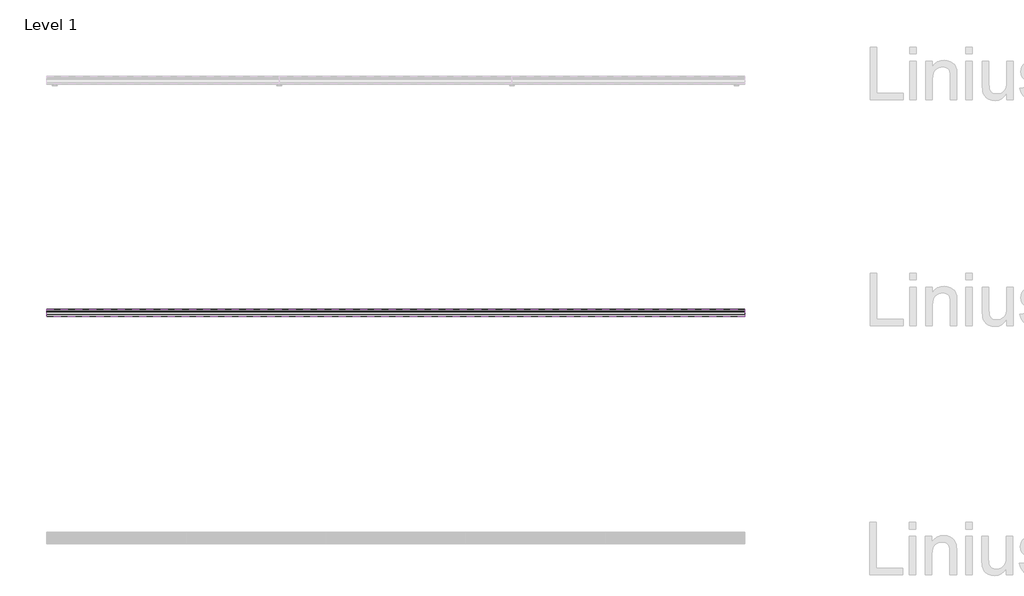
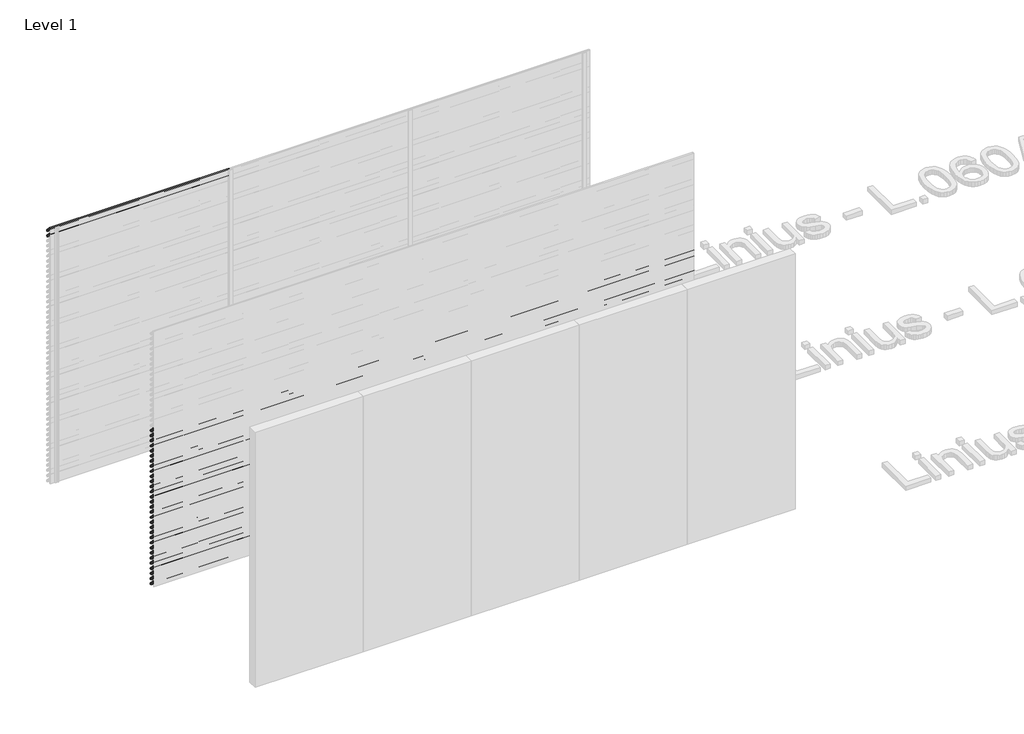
# One storey, part 95 of 153: 33 proxies.
"""IFC4 building model written with IfcOpenShell, lengths in millimetres."""

from ifc_helpers import new_model, si_unit, point, frame, frame_2d, origin, place, context, project, spatial, polyline, circle_curve, trimmed, segment, composite_curve, outline, extrude, element, save

model = new_model("IFC4")

# Units and contexts
model_context = context("Model", 3, world=origin())
ifc_project = project(units=[si_unit("LENGTHUNIT", "METRE", prefix="MILLI")], contexts=[model_context])

# Site, building, storey
site = spatial("IfcSite", under=ifc_project)
building = spatial("IfcBuilding", under=site)
storey = spatial("IfcBuildingStorey", under=building, Name="Level 1", Elevation=0.0)

# Proxies
placement = place(None, origin())
element("IfcBuildingElementProxy", 1, Name="Wall Sweeps", at=placement, inside=storey, context=model_context, shape_type="SweptSolid", body=[
    extrude(outline(composite_curve([segment(polyline([(43985.0540136, 3000.0), (43999.874191, 2998.7034025), (44049.0540136, 2945.0102749), (44049.0540136, 2933.6108187)]), True, "CONTINUOUS"), segment(trimmed(circle_curve(frame_2d((44045.7883652, 2933.897153)), 3.2781774), [point((44049.0540136, 2933.6108187))], [point((44046.4639442, 2930.6893438))], False, "CARTESIAN"), True, "CONTINUOUS"), segment(polyline([(44046.4639442, 2930.6893438), (44034.1895723, 2931.6282758), (43985.0540136, 2985.2730773), (43985.0540136, 3000.0)]), True, "CONTINUOUS")], self_intersect=False), holes=[composite_curve([segment(polyline([(43999.1621773, 2997.2599659), (43986.5540136, 2998.3630372), (43986.5540136, 2985.856213), (44034.8952036, 2933.0786805), (44046.3312542, 2932.2038762)]), True, "CONTINUOUS"), segment(trimmed(circle_curve(frame_2d((44045.7883652, 2933.897153)), 1.7781774), [point((44046.3312542, 2932.2038762))], [point((44047.5540136, 2933.6864389))], True, "CARTESIAN"), True, "CONTINUOUS"), segment(polyline([(44047.5540136, 2933.6864389), (44047.5540136, 2944.4271392), (43999.1621773, 2997.2599659)]), True, "CONTINUOUS")], self_intersect=False)]), frame((44966.6208097, 0.0, 0.0), z_axis=(1.0, 0.0, 0.0), x_axis=(0.0, 1.0, 0.0)), (0.0, 0.0, 1.0), 2000.0000001),
])
element("IfcBuildingElementProxy", 2, Name="Wall Sweeps", at=placement, inside=storey, context=model_context, shape_type="SweptSolid", body=[
    extrude(outline(composite_curve([segment(polyline([(43985.0540136, 2940.0), (43999.874191, 2938.7034025), (44049.0540136, 2885.0102749), (44049.0540136, 2873.6108187)]), True, "CONTINUOUS"), segment(trimmed(circle_curve(frame_2d((44045.7883652, 2873.897153)), 3.2781774), [point((44049.0540136, 2873.6108187))], [point((44046.4639442, 2870.6893438))], False, "CARTESIAN"), True, "CONTINUOUS"), segment(polyline([(44046.4639442, 2870.6893438), (44034.1895723, 2871.6282758), (43985.0540136, 2925.2730773), (43985.0540136, 2940.0)]), True, "CONTINUOUS")], self_intersect=False), holes=[composite_curve([segment(polyline([(43999.1621773, 2937.2599659), (43986.5540136, 2938.3630372), (43986.5540136, 2925.856213), (44034.8952036, 2873.0786805), (44046.3312542, 2872.2038762)]), True, "CONTINUOUS"), segment(trimmed(circle_curve(frame_2d((44045.7883652, 2873.897153)), 1.7781774), [point((44046.3312542, 2872.2038762))], [point((44047.5540136, 2873.6864389))], True, "CARTESIAN"), True, "CONTINUOUS"), segment(polyline([(44047.5540136, 2873.6864389), (44047.5540136, 2884.4271392), (43999.1621773, 2937.2599659)]), True, "CONTINUOUS")], self_intersect=False)]), frame((44966.6208097, 0.0, 0.0), z_axis=(1.0, 0.0, 0.0), x_axis=(0.0, 1.0, 0.0)), (0.0, 0.0, 1.0), 2000.0000001),
])
element("IfcBuildingElementProxy", 3, Name="Wall Sweeps", at=placement, inside=storey, context=model_context, shape_type="SweptSolid", body=[
    extrude(outline(composite_curve([segment(polyline([(41985.0540136, 1860.0), (41999.874191, 1858.7034025), (42049.0540136, 1805.0102749), (42049.0540136, 1793.6108187)]), True, "CONTINUOUS"), segment(trimmed(circle_curve(frame_2d((42045.7883652, 1793.897153)), 3.2781774), [point((42049.0540136, 1793.6108187))], [point((42046.4639442, 1790.6893438))], False, "CARTESIAN"), True, "CONTINUOUS"), segment(polyline([(42046.4639442, 1790.6893438), (42034.1895723, 1791.6282758), (41985.0540136, 1845.2730773), (41985.0540136, 1860.0)]), True, "CONTINUOUS")], self_intersect=False), holes=[composite_curve([segment(polyline([(41999.1621773, 1857.2599659), (41986.5540136, 1858.3630372), (41986.5540136, 1845.856213), (42034.8952036, 1793.0786805), (42046.3312542, 1792.2038762)]), True, "CONTINUOUS"), segment(trimmed(circle_curve(frame_2d((42045.7883652, 1793.897153)), 1.7781774), [point((42046.3312542, 1792.2038762))], [point((42047.5540136, 1793.6864389))], True, "CARTESIAN"), True, "CONTINUOUS"), segment(polyline([(42047.5540136, 1793.6864389), (42047.5540136, 1804.4271392), (41999.1621773, 1857.2599659)]), True, "CONTINUOUS")], self_intersect=False)]), frame((44966.6208097, 0.0, 0.0), z_axis=(1.0, 0.0, 0.0), x_axis=(0.0, 1.0, 0.0)), (0.0, 0.0, 1.0), 6000.0),
])
element("IfcBuildingElementProxy", 4, Name="Wall Sweeps", at=placement, inside=storey, context=model_context, shape_type="SweptSolid", body=[
    extrude(outline(composite_curve([segment(polyline([(41985.0540136, 1800.0), (41999.874191, 1798.7034025), (42049.0540136, 1745.0102749), (42049.0540136, 1733.6108187)]), True, "CONTINUOUS"), segment(trimmed(circle_curve(frame_2d((42045.7883652, 1733.897153)), 3.2781774), [point((42049.0540136, 1733.6108187))], [point((42046.4639442, 1730.6893438))], False, "CARTESIAN"), True, "CONTINUOUS"), segment(polyline([(42046.4639442, 1730.6893438), (42034.1895723, 1731.6282758), (41985.0540136, 1785.2730773), (41985.0540136, 1800.0)]), True, "CONTINUOUS")], self_intersect=False), holes=[composite_curve([segment(polyline([(41999.1621773, 1797.2599659), (41986.5540136, 1798.3630372), (41986.5540136, 1785.856213), (42034.8952036, 1733.0786805), (42046.3312542, 1732.2038762)]), True, "CONTINUOUS"), segment(trimmed(circle_curve(frame_2d((42045.7883652, 1733.897153)), 1.7781774), [point((42046.3312542, 1732.2038762))], [point((42047.5540136, 1733.6864389))], True, "CARTESIAN"), True, "CONTINUOUS"), segment(polyline([(42047.5540136, 1733.6864389), (42047.5540136, 1744.4271392), (41999.1621773, 1797.2599659)]), True, "CONTINUOUS")], self_intersect=False)]), frame((44966.6208097, 0.0, 0.0), z_axis=(1.0, 0.0, 0.0), x_axis=(0.0, 1.0, 0.0)), (0.0, 0.0, 1.0), 6000.0),
])
element("IfcBuildingElementProxy", 5, Name="Wall Sweeps", at=placement, inside=storey, context=model_context, shape_type="SweptSolid", body=[
    extrude(outline(composite_curve([segment(polyline([(41985.0540136, 1740.0), (41999.874191, 1738.7034025), (42049.0540136, 1685.0102749), (42049.0540136, 1673.6108187)]), True, "CONTINUOUS"), segment(trimmed(circle_curve(frame_2d((42045.7883652, 1673.897153)), 3.2781774), [point((42049.0540136, 1673.6108187))], [point((42046.4639442, 1670.6893438))], False, "CARTESIAN"), True, "CONTINUOUS"), segment(polyline([(42046.4639442, 1670.6893438), (42034.1895723, 1671.6282758), (41985.0540136, 1725.2730773), (41985.0540136, 1740.0)]), True, "CONTINUOUS")], self_intersect=False), holes=[composite_curve([segment(polyline([(41999.1621773, 1737.2599659), (41986.5540136, 1738.3630372), (41986.5540136, 1725.856213), (42034.8952036, 1673.0786805), (42046.3312542, 1672.2038762)]), True, "CONTINUOUS"), segment(trimmed(circle_curve(frame_2d((42045.7883652, 1673.897153)), 1.7781774), [point((42046.3312542, 1672.2038762))], [point((42047.5540136, 1673.6864389))], True, "CARTESIAN"), True, "CONTINUOUS"), segment(polyline([(42047.5540136, 1673.6864389), (42047.5540136, 1684.4271392), (41999.1621773, 1737.2599659)]), True, "CONTINUOUS")], self_intersect=False)]), frame((44966.6208097, 0.0, 0.0), z_axis=(1.0, 0.0, 0.0), x_axis=(0.0, 1.0, 0.0)), (0.0, 0.0, 1.0), 6000.0),
])
element("IfcBuildingElementProxy", 6, Name="Wall Sweeps", at=placement, inside=storey, context=model_context, shape_type="SweptSolid", body=[
    extrude(outline(composite_curve([segment(polyline([(41985.0540136, 1680.0), (41999.874191, 1678.7034025), (42049.0540136, 1625.0102749), (42049.0540136, 1613.6108187)]), True, "CONTINUOUS"), segment(trimmed(circle_curve(frame_2d((42045.7883652, 1613.897153)), 3.2781774), [point((42049.0540136, 1613.6108187))], [point((42046.4639442, 1610.6893438))], False, "CARTESIAN"), True, "CONTINUOUS"), segment(polyline([(42046.4639442, 1610.6893438), (42034.1895723, 1611.6282758), (41985.0540136, 1665.2730773), (41985.0540136, 1680.0)]), True, "CONTINUOUS")], self_intersect=False), holes=[composite_curve([segment(polyline([(41999.1621773, 1677.2599659), (41986.5540136, 1678.3630372), (41986.5540136, 1665.856213), (42034.8952036, 1613.0786805), (42046.3312542, 1612.2038762)]), True, "CONTINUOUS"), segment(trimmed(circle_curve(frame_2d((42045.7883652, 1613.897153)), 1.7781774), [point((42046.3312542, 1612.2038762))], [point((42047.5540136, 1613.6864389))], True, "CARTESIAN"), True, "CONTINUOUS"), segment(polyline([(42047.5540136, 1613.6864389), (42047.5540136, 1624.4271392), (41999.1621773, 1677.2599659)]), True, "CONTINUOUS")], self_intersect=False)]), frame((44966.6208097, 0.0, 0.0), z_axis=(1.0, 0.0, 0.0), x_axis=(0.0, 1.0, 0.0)), (0.0, 0.0, 1.0), 6000.0),
])
element("IfcBuildingElementProxy", 7, Name="Wall Sweeps", at=placement, inside=storey, context=model_context, shape_type="SweptSolid", body=[
    extrude(outline(composite_curve([segment(polyline([(41985.0540136, 1620.0), (41999.874191, 1618.7034025), (42049.0540136, 1565.0102749), (42049.0540136, 1553.6108187)]), True, "CONTINUOUS"), segment(trimmed(circle_curve(frame_2d((42045.7883652, 1553.897153)), 3.2781774), [point((42049.0540136, 1553.6108187))], [point((42046.4639442, 1550.6893438))], False, "CARTESIAN"), True, "CONTINUOUS"), segment(polyline([(42046.4639442, 1550.6893438), (42034.1895723, 1551.6282758), (41985.0540136, 1605.2730773), (41985.0540136, 1620.0)]), True, "CONTINUOUS")], self_intersect=False), holes=[composite_curve([segment(polyline([(41999.1621773, 1617.2599659), (41986.5540136, 1618.3630372), (41986.5540136, 1605.856213), (42034.8952036, 1553.0786805), (42046.3312542, 1552.2038762)]), True, "CONTINUOUS"), segment(trimmed(circle_curve(frame_2d((42045.7883652, 1553.897153)), 1.7781774), [point((42046.3312542, 1552.2038762))], [point((42047.5540136, 1553.6864389))], True, "CARTESIAN"), True, "CONTINUOUS"), segment(polyline([(42047.5540136, 1553.6864389), (42047.5540136, 1564.4271392), (41999.1621773, 1617.2599659)]), True, "CONTINUOUS")], self_intersect=False)]), frame((44966.6208097, 0.0, 0.0), z_axis=(1.0, 0.0, 0.0), x_axis=(0.0, 1.0, 0.0)), (0.0, 0.0, 1.0), 6000.0),
])
element("IfcBuildingElementProxy", 8, Name="Wall Sweeps", at=placement, inside=storey, context=model_context, shape_type="SweptSolid", body=[
    extrude(outline(composite_curve([segment(polyline([(41985.0540136, 1560.0), (41999.874191, 1558.7034025), (42049.0540136, 1505.0102749), (42049.0540136, 1493.6108187)]), True, "CONTINUOUS"), segment(trimmed(circle_curve(frame_2d((42045.7883652, 1493.897153)), 3.2781774), [point((42049.0540136, 1493.6108187))], [point((42046.4639442, 1490.6893438))], False, "CARTESIAN"), True, "CONTINUOUS"), segment(polyline([(42046.4639442, 1490.6893438), (42034.1895723, 1491.6282758), (41985.0540136, 1545.2730773), (41985.0540136, 1560.0)]), True, "CONTINUOUS")], self_intersect=False), holes=[composite_curve([segment(polyline([(41999.1621773, 1557.2599659), (41986.5540136, 1558.3630372), (41986.5540136, 1545.856213), (42034.8952036, 1493.0786805), (42046.3312542, 1492.2038762)]), True, "CONTINUOUS"), segment(trimmed(circle_curve(frame_2d((42045.7883652, 1493.897153)), 1.7781774), [point((42046.3312542, 1492.2038762))], [point((42047.5540136, 1493.6864389))], True, "CARTESIAN"), True, "CONTINUOUS"), segment(polyline([(42047.5540136, 1493.6864389), (42047.5540136, 1504.4271392), (41999.1621773, 1557.2599659)]), True, "CONTINUOUS")], self_intersect=False)]), frame((44966.6208097, 0.0, 0.0), z_axis=(1.0, 0.0, 0.0), x_axis=(0.0, 1.0, 0.0)), (0.0, 0.0, 1.0), 6000.0),
])
element("IfcBuildingElementProxy", 9, Name="Wall Sweeps", at=placement, inside=storey, context=model_context, shape_type="SweptSolid", body=[
    extrude(outline(composite_curve([segment(polyline([(41985.0540136, 1500.0), (41999.874191, 1498.7034025), (42049.0540136, 1445.0102749), (42049.0540136, 1433.6108187)]), True, "CONTINUOUS"), segment(trimmed(circle_curve(frame_2d((42045.7883652, 1433.897153)), 3.2781774), [point((42049.0540136, 1433.6108187))], [point((42046.4639442, 1430.6893438))], False, "CARTESIAN"), True, "CONTINUOUS"), segment(polyline([(42046.4639442, 1430.6893438), (42034.1895723, 1431.6282758), (41985.0540136, 1485.2730773), (41985.0540136, 1500.0)]), True, "CONTINUOUS")], self_intersect=False), holes=[composite_curve([segment(polyline([(41999.1621773, 1497.2599659), (41986.5540136, 1498.3630372), (41986.5540136, 1485.856213), (42034.8952036, 1433.0786805), (42046.3312542, 1432.2038762)]), True, "CONTINUOUS"), segment(trimmed(circle_curve(frame_2d((42045.7883652, 1433.897153)), 1.7781774), [point((42046.3312542, 1432.2038762))], [point((42047.5540136, 1433.6864389))], True, "CARTESIAN"), True, "CONTINUOUS"), segment(polyline([(42047.5540136, 1433.6864389), (42047.5540136, 1444.4271392), (41999.1621773, 1497.2599659)]), True, "CONTINUOUS")], self_intersect=False)]), frame((44966.6208097, 0.0, 0.0), z_axis=(1.0, 0.0, 0.0), x_axis=(0.0, 1.0, 0.0)), (0.0, 0.0, 1.0), 6000.0),
])
element("IfcBuildingElementProxy", 10, Name="Wall Sweeps", at=placement, inside=storey, context=model_context, shape_type="SweptSolid", body=[
    extrude(outline(composite_curve([segment(polyline([(41985.0540136, 1440.0), (41999.874191, 1438.7034025), (42049.0540136, 1385.0102749), (42049.0540136, 1373.6108187)]), True, "CONTINUOUS"), segment(trimmed(circle_curve(frame_2d((42045.7883652, 1373.897153)), 3.2781774), [point((42049.0540136, 1373.6108187))], [point((42046.4639442, 1370.6893438))], False, "CARTESIAN"), True, "CONTINUOUS"), segment(polyline([(42046.4639442, 1370.6893438), (42034.1895723, 1371.6282758), (41985.0540136, 1425.2730773), (41985.0540136, 1440.0)]), True, "CONTINUOUS")], self_intersect=False), holes=[composite_curve([segment(polyline([(41999.1621773, 1437.2599659), (41986.5540136, 1438.3630372), (41986.5540136, 1425.856213), (42034.8952036, 1373.0786805), (42046.3312542, 1372.2038762)]), True, "CONTINUOUS"), segment(trimmed(circle_curve(frame_2d((42045.7883652, 1373.897153)), 1.7781774), [point((42046.3312542, 1372.2038762))], [point((42047.5540136, 1373.6864389))], True, "CARTESIAN"), True, "CONTINUOUS"), segment(polyline([(42047.5540136, 1373.6864389), (42047.5540136, 1384.4271392), (41999.1621773, 1437.2599659)]), True, "CONTINUOUS")], self_intersect=False)]), frame((44966.6208097, 0.0, 0.0), z_axis=(1.0, 0.0, 0.0), x_axis=(0.0, 1.0, 0.0)), (0.0, 0.0, 1.0), 6000.0),
])
element("IfcBuildingElementProxy", 11, Name="Wall Sweeps", at=placement, inside=storey, context=model_context, shape_type="SweptSolid", body=[
    extrude(outline(composite_curve([segment(polyline([(41985.0540136, 1380.0), (41999.874191, 1378.7034025), (42049.0540136, 1325.0102749), (42049.0540136, 1313.6108187)]), True, "CONTINUOUS"), segment(trimmed(circle_curve(frame_2d((42045.7883652, 1313.897153)), 3.2781774), [point((42049.0540136, 1313.6108187))], [point((42046.4639442, 1310.6893438))], False, "CARTESIAN"), True, "CONTINUOUS"), segment(polyline([(42046.4639442, 1310.6893438), (42034.1895723, 1311.6282758), (41985.0540136, 1365.2730773), (41985.0540136, 1380.0)]), True, "CONTINUOUS")], self_intersect=False), holes=[composite_curve([segment(polyline([(41999.1621773, 1377.2599659), (41986.5540136, 1378.3630372), (41986.5540136, 1365.856213), (42034.8952036, 1313.0786805), (42046.3312542, 1312.2038762)]), True, "CONTINUOUS"), segment(trimmed(circle_curve(frame_2d((42045.7883652, 1313.897153)), 1.7781774), [point((42046.3312542, 1312.2038762))], [point((42047.5540136, 1313.6864389))], True, "CARTESIAN"), True, "CONTINUOUS"), segment(polyline([(42047.5540136, 1313.6864389), (42047.5540136, 1324.4271392), (41999.1621773, 1377.2599659)]), True, "CONTINUOUS")], self_intersect=False)]), frame((44966.6208097, 0.0, 0.0), z_axis=(1.0, 0.0, 0.0), x_axis=(0.0, 1.0, 0.0)), (0.0, 0.0, 1.0), 6000.0),
])
element("IfcBuildingElementProxy", 12, Name="Wall Sweeps", at=placement, inside=storey, context=model_context, shape_type="SweptSolid", body=[
    extrude(outline(composite_curve([segment(polyline([(41985.0540136, 1320.0), (41999.874191, 1318.7034025), (42049.0540136, 1265.0102749), (42049.0540136, 1253.6108187)]), True, "CONTINUOUS"), segment(trimmed(circle_curve(frame_2d((42045.7883652, 1253.897153)), 3.2781774), [point((42049.0540136, 1253.6108187))], [point((42046.4639442, 1250.6893438))], False, "CARTESIAN"), True, "CONTINUOUS"), segment(polyline([(42046.4639442, 1250.6893438), (42034.1895723, 1251.6282758), (41985.0540136, 1305.2730773), (41985.0540136, 1320.0)]), True, "CONTINUOUS")], self_intersect=False), holes=[composite_curve([segment(polyline([(41999.1621773, 1317.2599659), (41986.5540136, 1318.3630372), (41986.5540136, 1305.856213), (42034.8952036, 1253.0786805), (42046.3312542, 1252.2038762)]), True, "CONTINUOUS"), segment(trimmed(circle_curve(frame_2d((42045.7883652, 1253.897153)), 1.7781774), [point((42046.3312542, 1252.2038762))], [point((42047.5540136, 1253.6864389))], True, "CARTESIAN"), True, "CONTINUOUS"), segment(polyline([(42047.5540136, 1253.6864389), (42047.5540136, 1264.4271392), (41999.1621773, 1317.2599659)]), True, "CONTINUOUS")], self_intersect=False)]), frame((44966.6208097, 0.0, 0.0), z_axis=(1.0, 0.0, 0.0), x_axis=(0.0, 1.0, 0.0)), (0.0, 0.0, 1.0), 6000.0),
])
element("IfcBuildingElementProxy", 13, Name="Wall Sweeps", at=placement, inside=storey, context=model_context, shape_type="SweptSolid", body=[
    extrude(outline(composite_curve([segment(polyline([(41985.0540136, 1260.0), (41999.874191, 1258.7034025), (42049.0540136, 1205.0102749), (42049.0540136, 1193.6108187)]), True, "CONTINUOUS"), segment(trimmed(circle_curve(frame_2d((42045.7883652, 1193.897153)), 3.2781774), [point((42049.0540136, 1193.6108187))], [point((42046.4639442, 1190.6893438))], False, "CARTESIAN"), True, "CONTINUOUS"), segment(polyline([(42046.4639442, 1190.6893438), (42034.1895723, 1191.6282758), (41985.0540136, 1245.2730773), (41985.0540136, 1260.0)]), True, "CONTINUOUS")], self_intersect=False), holes=[composite_curve([segment(polyline([(41999.1621773, 1257.2599659), (41986.5540136, 1258.3630372), (41986.5540136, 1245.856213), (42034.8952036, 1193.0786805), (42046.3312542, 1192.2038762)]), True, "CONTINUOUS"), segment(trimmed(circle_curve(frame_2d((42045.7883652, 1193.897153)), 1.7781774), [point((42046.3312542, 1192.2038762))], [point((42047.5540136, 1193.6864389))], True, "CARTESIAN"), True, "CONTINUOUS"), segment(polyline([(42047.5540136, 1193.6864389), (42047.5540136, 1204.4271392), (41999.1621773, 1257.2599659)]), True, "CONTINUOUS")], self_intersect=False)]), frame((44966.6208097, 0.0, 0.0), z_axis=(1.0, 0.0, 0.0), x_axis=(0.0, 1.0, 0.0)), (0.0, 0.0, 1.0), 6000.0),
])
element("IfcBuildingElementProxy", 14, Name="Wall Sweeps", at=placement, inside=storey, context=model_context, shape_type="SweptSolid", body=[
    extrude(outline(composite_curve([segment(polyline([(41985.0540136, 1200.0), (41999.874191, 1198.7034025), (42049.0540136, 1145.0102749), (42049.0540136, 1133.6108187)]), True, "CONTINUOUS"), segment(trimmed(circle_curve(frame_2d((42045.7883652, 1133.897153)), 3.2781774), [point((42049.0540136, 1133.6108187))], [point((42046.4639442, 1130.6893438))], False, "CARTESIAN"), True, "CONTINUOUS"), segment(polyline([(42046.4639442, 1130.6893438), (42034.1895723, 1131.6282758), (41985.0540136, 1185.2730773), (41985.0540136, 1200.0)]), True, "CONTINUOUS")], self_intersect=False), holes=[composite_curve([segment(polyline([(41999.1621773, 1197.2599659), (41986.5540136, 1198.3630372), (41986.5540136, 1185.856213), (42034.8952036, 1133.0786805), (42046.3312542, 1132.2038762)]), True, "CONTINUOUS"), segment(trimmed(circle_curve(frame_2d((42045.7883652, 1133.897153)), 1.7781774), [point((42046.3312542, 1132.2038762))], [point((42047.5540136, 1133.6864389))], True, "CARTESIAN"), True, "CONTINUOUS"), segment(polyline([(42047.5540136, 1133.6864389), (42047.5540136, 1144.4271392), (41999.1621773, 1197.2599659)]), True, "CONTINUOUS")], self_intersect=False)]), frame((44966.6208097, 0.0, 0.0), z_axis=(1.0, 0.0, 0.0), x_axis=(0.0, 1.0, 0.0)), (0.0, 0.0, 1.0), 6000.0),
])
element("IfcBuildingElementProxy", 15, Name="Wall Sweeps", at=placement, inside=storey, context=model_context, shape_type="SweptSolid", body=[
    extrude(outline(composite_curve([segment(polyline([(41985.0540136, 1140.0), (41999.874191, 1138.7034025), (42049.0540136, 1085.0102749), (42049.0540136, 1073.6108187)]), True, "CONTINUOUS"), segment(trimmed(circle_curve(frame_2d((42045.7883652, 1073.897153)), 3.2781774), [point((42049.0540136, 1073.6108187))], [point((42046.4639442, 1070.6893438))], False, "CARTESIAN"), True, "CONTINUOUS"), segment(polyline([(42046.4639442, 1070.6893438), (42034.1895723, 1071.6282758), (41985.0540136, 1125.2730773), (41985.0540136, 1140.0)]), True, "CONTINUOUS")], self_intersect=False), holes=[composite_curve([segment(polyline([(41999.1621773, 1137.2599659), (41986.5540136, 1138.3630372), (41986.5540136, 1125.856213), (42034.8952036, 1073.0786805), (42046.3312542, 1072.2038762)]), True, "CONTINUOUS"), segment(trimmed(circle_curve(frame_2d((42045.7883652, 1073.897153)), 1.7781774), [point((42046.3312542, 1072.2038762))], [point((42047.5540136, 1073.6864389))], True, "CARTESIAN"), True, "CONTINUOUS"), segment(polyline([(42047.5540136, 1073.6864389), (42047.5540136, 1084.4271392), (41999.1621773, 1137.2599659)]), True, "CONTINUOUS")], self_intersect=False)]), frame((44966.6208097, 0.0, 0.0), z_axis=(1.0, 0.0, 0.0), x_axis=(0.0, 1.0, 0.0)), (0.0, 0.0, 1.0), 6000.0),
])
element("IfcBuildingElementProxy", 16, Name="Wall Sweeps", at=placement, inside=storey, context=model_context, shape_type="SweptSolid", body=[
    extrude(outline(composite_curve([segment(polyline([(41985.0540136, 1080.0), (41999.874191, 1078.7034025), (42049.0540136, 1025.0102749), (42049.0540136, 1013.6108187)]), True, "CONTINUOUS"), segment(trimmed(circle_curve(frame_2d((42045.7883652, 1013.897153)), 3.2781774), [point((42049.0540136, 1013.6108187))], [point((42046.4639442, 1010.6893438))], False, "CARTESIAN"), True, "CONTINUOUS"), segment(polyline([(42046.4639442, 1010.6893438), (42034.1895723, 1011.6282758), (41985.0540136, 1065.2730773), (41985.0540136, 1080.0)]), True, "CONTINUOUS")], self_intersect=False), holes=[composite_curve([segment(polyline([(41999.1621773, 1077.2599659), (41986.5540136, 1078.3630372), (41986.5540136, 1065.856213), (42034.8952036, 1013.0786805), (42046.3312542, 1012.2038762)]), True, "CONTINUOUS"), segment(trimmed(circle_curve(frame_2d((42045.7883652, 1013.897153)), 1.7781774), [point((42046.3312542, 1012.2038762))], [point((42047.5540136, 1013.6864389))], True, "CARTESIAN"), True, "CONTINUOUS"), segment(polyline([(42047.5540136, 1013.6864389), (42047.5540136, 1024.4271392), (41999.1621773, 1077.2599659)]), True, "CONTINUOUS")], self_intersect=False)]), frame((44966.6208097, 0.0, 0.0), z_axis=(1.0, 0.0, 0.0), x_axis=(0.0, 1.0, 0.0)), (0.0, 0.0, 1.0), 6000.0),
])
element("IfcBuildingElementProxy", 17, Name="Wall Sweeps", at=placement, inside=storey, context=model_context, shape_type="SweptSolid", body=[
    extrude(outline(composite_curve([segment(polyline([(41985.0540136, 1020.0), (41999.874191, 1018.7034025), (42049.0540136, 965.0102749), (42049.0540136, 953.6108187)]), True, "CONTINUOUS"), segment(trimmed(circle_curve(frame_2d((42045.7883652, 953.897153)), 3.2781774), [point((42049.0540136, 953.6108187))], [point((42046.4639442, 950.6893438))], False, "CARTESIAN"), True, "CONTINUOUS"), segment(polyline([(42046.4639442, 950.6893438), (42034.1895723, 951.6282758), (41985.0540136, 1005.2730773), (41985.0540136, 1020.0)]), True, "CONTINUOUS")], self_intersect=False), holes=[composite_curve([segment(polyline([(41999.1621773, 1017.2599659), (41986.5540136, 1018.3630372), (41986.5540136, 1005.856213), (42034.8952036, 953.0786805), (42046.3312542, 952.2038762)]), True, "CONTINUOUS"), segment(trimmed(circle_curve(frame_2d((42045.7883652, 953.897153)), 1.7781774), [point((42046.3312542, 952.2038762))], [point((42047.5540136, 953.6864389))], True, "CARTESIAN"), True, "CONTINUOUS"), segment(polyline([(42047.5540136, 953.6864389), (42047.5540136, 964.4271392), (41999.1621773, 1017.2599659)]), True, "CONTINUOUS")], self_intersect=False)]), frame((44966.6208097, 0.0, 0.0), z_axis=(1.0, 0.0, 0.0), x_axis=(0.0, 1.0, 0.0)), (0.0, 0.0, 1.0), 6000.0),
])
element("IfcBuildingElementProxy", 18, Name="Wall Sweeps", at=placement, inside=storey, context=model_context, shape_type="SweptSolid", body=[
    extrude(outline(composite_curve([segment(polyline([(41985.0540136, 960.0), (41999.874191, 958.7034025), (42049.0540136, 905.0102749), (42049.0540136, 893.6108187)]), True, "CONTINUOUS"), segment(trimmed(circle_curve(frame_2d((42045.7883652, 893.897153)), 3.2781774), [point((42049.0540136, 893.6108187))], [point((42046.4639442, 890.6893438))], False, "CARTESIAN"), True, "CONTINUOUS"), segment(polyline([(42046.4639442, 890.6893438), (42034.1895723, 891.6282758), (41985.0540136, 945.2730773), (41985.0540136, 960.0)]), True, "CONTINUOUS")], self_intersect=False), holes=[composite_curve([segment(polyline([(41999.1621773, 957.2599659), (41986.5540136, 958.3630372), (41986.5540136, 945.856213), (42034.8952036, 893.0786805), (42046.3312542, 892.2038762)]), True, "CONTINUOUS"), segment(trimmed(circle_curve(frame_2d((42045.7883652, 893.897153)), 1.7781774), [point((42046.3312542, 892.2038762))], [point((42047.5540136, 893.6864389))], True, "CARTESIAN"), True, "CONTINUOUS"), segment(polyline([(42047.5540136, 893.6864389), (42047.5540136, 904.4271392), (41999.1621773, 957.2599659)]), True, "CONTINUOUS")], self_intersect=False)]), frame((44966.6208097, 0.0, 0.0), z_axis=(1.0, 0.0, 0.0), x_axis=(0.0, 1.0, 0.0)), (0.0, 0.0, 1.0), 6000.0),
])
element("IfcBuildingElementProxy", 19, Name="Wall Sweeps", at=placement, inside=storey, context=model_context, shape_type="SweptSolid", body=[
    extrude(outline(composite_curve([segment(polyline([(41985.0540136, 900.0), (41999.874191, 898.7034025), (42049.0540136, 845.0102749), (42049.0540136, 833.6108187)]), True, "CONTINUOUS"), segment(trimmed(circle_curve(frame_2d((42045.7883652, 833.897153)), 3.2781774), [point((42049.0540136, 833.6108187))], [point((42046.4639442, 830.6893438))], False, "CARTESIAN"), True, "CONTINUOUS"), segment(polyline([(42046.4639442, 830.6893438), (42034.1895723, 831.6282758), (41985.0540136, 885.2730773), (41985.0540136, 900.0)]), True, "CONTINUOUS")], self_intersect=False), holes=[composite_curve([segment(polyline([(41999.1621773, 897.2599659), (41986.5540136, 898.3630372), (41986.5540136, 885.856213), (42034.8952036, 833.0786805), (42046.3312542, 832.2038762)]), True, "CONTINUOUS"), segment(trimmed(circle_curve(frame_2d((42045.7883652, 833.897153)), 1.7781774), [point((42046.3312542, 832.2038762))], [point((42047.5540136, 833.6864389))], True, "CARTESIAN"), True, "CONTINUOUS"), segment(polyline([(42047.5540136, 833.6864389), (42047.5540136, 844.4271392), (41999.1621773, 897.2599659)]), True, "CONTINUOUS")], self_intersect=False)]), frame((44966.6208097, 0.0, 0.0), z_axis=(1.0, 0.0, 0.0), x_axis=(0.0, 1.0, 0.0)), (0.0, 0.0, 1.0), 6000.0),
])
element("IfcBuildingElementProxy", 20, Name="Wall Sweeps", at=placement, inside=storey, context=model_context, shape_type="SweptSolid", body=[
    extrude(outline(composite_curve([segment(polyline([(41985.0540136, 840.0), (41999.874191, 838.7034025), (42049.0540136, 785.0102749), (42049.0540136, 773.6108187)]), True, "CONTINUOUS"), segment(trimmed(circle_curve(frame_2d((42045.7883652, 773.897153)), 3.2781774), [point((42049.0540136, 773.6108187))], [point((42046.4639442, 770.6893438))], False, "CARTESIAN"), True, "CONTINUOUS"), segment(polyline([(42046.4639442, 770.6893438), (42034.1895723, 771.6282758), (41985.0540136, 825.2730773), (41985.0540136, 840.0)]), True, "CONTINUOUS")], self_intersect=False), holes=[composite_curve([segment(polyline([(41999.1621773, 837.2599659), (41986.5540136, 838.3630372), (41986.5540136, 825.856213), (42034.8952036, 773.0786805), (42046.3312542, 772.2038762)]), True, "CONTINUOUS"), segment(trimmed(circle_curve(frame_2d((42045.7883652, 773.897153)), 1.7781774), [point((42046.3312542, 772.2038762))], [point((42047.5540136, 773.6864389))], True, "CARTESIAN"), True, "CONTINUOUS"), segment(polyline([(42047.5540136, 773.6864389), (42047.5540136, 784.4271392), (41999.1621773, 837.2599659)]), True, "CONTINUOUS")], self_intersect=False)]), frame((44966.6208097, 0.0, 0.0), z_axis=(1.0, 0.0, 0.0), x_axis=(0.0, 1.0, 0.0)), (0.0, 0.0, 1.0), 6000.0),
])
element("IfcBuildingElementProxy", 21, Name="Wall Sweeps", at=placement, inside=storey, context=model_context, shape_type="SweptSolid", body=[
    extrude(outline(composite_curve([segment(polyline([(41985.0540136, 780.0), (41999.874191, 778.7034025), (42049.0540136, 725.0102749), (42049.0540136, 713.6108187)]), True, "CONTINUOUS"), segment(trimmed(circle_curve(frame_2d((42045.7883652, 713.897153)), 3.2781774), [point((42049.0540136, 713.6108187))], [point((42046.4639442, 710.6893438))], False, "CARTESIAN"), True, "CONTINUOUS"), segment(polyline([(42046.4639442, 710.6893438), (42034.1895723, 711.6282758), (41985.0540136, 765.2730773), (41985.0540136, 780.0)]), True, "CONTINUOUS")], self_intersect=False), holes=[composite_curve([segment(polyline([(41999.1621773, 777.2599659), (41986.5540136, 778.3630372), (41986.5540136, 765.856213), (42034.8952036, 713.0786805), (42046.3312542, 712.2038762)]), True, "CONTINUOUS"), segment(trimmed(circle_curve(frame_2d((42045.7883652, 713.897153)), 1.7781774), [point((42046.3312542, 712.2038762))], [point((42047.5540136, 713.6864389))], True, "CARTESIAN"), True, "CONTINUOUS"), segment(polyline([(42047.5540136, 713.6864389), (42047.5540136, 724.4271392), (41999.1621773, 777.2599659)]), True, "CONTINUOUS")], self_intersect=False)]), frame((44966.6208097, 0.0, 0.0), z_axis=(1.0, 0.0, 0.0), x_axis=(0.0, 1.0, 0.0)), (0.0, 0.0, 1.0), 6000.0),
])
element("IfcBuildingElementProxy", 22, Name="Wall Sweeps", at=placement, inside=storey, context=model_context, shape_type="SweptSolid", body=[
    extrude(outline(composite_curve([segment(polyline([(41985.0540136, 720.0), (41999.874191, 718.7034025), (42049.0540136, 665.0102749), (42049.0540136, 653.6108187)]), True, "CONTINUOUS"), segment(trimmed(circle_curve(frame_2d((42045.7883652, 653.897153)), 3.2781774), [point((42049.0540136, 653.6108187))], [point((42046.4639442, 650.6893438))], False, "CARTESIAN"), True, "CONTINUOUS"), segment(polyline([(42046.4639442, 650.6893438), (42034.1895723, 651.6282758), (41985.0540136, 705.2730773), (41985.0540136, 720.0)]), True, "CONTINUOUS")], self_intersect=False), holes=[composite_curve([segment(polyline([(41999.1621773, 717.2599659), (41986.5540136, 718.3630372), (41986.5540136, 705.856213), (42034.8952036, 653.0786805), (42046.3312542, 652.2038762)]), True, "CONTINUOUS"), segment(trimmed(circle_curve(frame_2d((42045.7883652, 653.897153)), 1.7781774), [point((42046.3312542, 652.2038762))], [point((42047.5540136, 653.6864389))], True, "CARTESIAN"), True, "CONTINUOUS"), segment(polyline([(42047.5540136, 653.6864389), (42047.5540136, 664.4271392), (41999.1621773, 717.2599659)]), True, "CONTINUOUS")], self_intersect=False)]), frame((44966.6208097, 0.0, 0.0), z_axis=(1.0, 0.0, 0.0), x_axis=(0.0, 1.0, 0.0)), (0.0, 0.0, 1.0), 6000.0),
])
element("IfcBuildingElementProxy", 23, Name="Wall Sweeps", at=placement, inside=storey, context=model_context, shape_type="SweptSolid", body=[
    extrude(outline(composite_curve([segment(polyline([(41985.0540136, 660.0), (41999.874191, 658.7034025), (42049.0540136, 605.0102749), (42049.0540136, 593.6108187)]), True, "CONTINUOUS"), segment(trimmed(circle_curve(frame_2d((42045.7883652, 593.897153)), 3.2781774), [point((42049.0540136, 593.6108187))], [point((42046.4639442, 590.6893438))], False, "CARTESIAN"), True, "CONTINUOUS"), segment(polyline([(42046.4639442, 590.6893438), (42034.1895723, 591.6282758), (41985.0540136, 645.2730773), (41985.0540136, 660.0)]), True, "CONTINUOUS")], self_intersect=False), holes=[composite_curve([segment(polyline([(41999.1621773, 657.2599659), (41986.5540136, 658.3630372), (41986.5540136, 645.856213), (42034.8952036, 593.0786805), (42046.3312542, 592.2038762)]), True, "CONTINUOUS"), segment(trimmed(circle_curve(frame_2d((42045.7883652, 593.897153)), 1.7781774), [point((42046.3312542, 592.2038762))], [point((42047.5540136, 593.6864389))], True, "CARTESIAN"), True, "CONTINUOUS"), segment(polyline([(42047.5540136, 593.6864389), (42047.5540136, 604.4271392), (41999.1621773, 657.2599659)]), True, "CONTINUOUS")], self_intersect=False)]), frame((44966.6208097, 0.0, 0.0), z_axis=(1.0, 0.0, 0.0), x_axis=(0.0, 1.0, 0.0)), (0.0, 0.0, 1.0), 6000.0),
])
element("IfcBuildingElementProxy", 24, Name="Wall Sweeps", at=placement, inside=storey, context=model_context, shape_type="SweptSolid", body=[
    extrude(outline(composite_curve([segment(polyline([(41985.0540136, 600.0), (41999.874191, 598.7034025), (42049.0540136, 545.0102749), (42049.0540136, 533.6108187)]), True, "CONTINUOUS"), segment(trimmed(circle_curve(frame_2d((42045.7883652, 533.897153)), 3.2781774), [point((42049.0540136, 533.6108187))], [point((42046.4639442, 530.6893438))], False, "CARTESIAN"), True, "CONTINUOUS"), segment(polyline([(42046.4639442, 530.6893438), (42034.1895723, 531.6282758), (41985.0540136, 585.2730773), (41985.0540136, 600.0)]), True, "CONTINUOUS")], self_intersect=False), holes=[composite_curve([segment(polyline([(41999.1621773, 597.2599659), (41986.5540136, 598.3630372), (41986.5540136, 585.856213), (42034.8952036, 533.0786805), (42046.3312542, 532.2038762)]), True, "CONTINUOUS"), segment(trimmed(circle_curve(frame_2d((42045.7883652, 533.897153)), 1.7781774), [point((42046.3312542, 532.2038762))], [point((42047.5540136, 533.6864389))], True, "CARTESIAN"), True, "CONTINUOUS"), segment(polyline([(42047.5540136, 533.6864389), (42047.5540136, 544.4271392), (41999.1621773, 597.2599659)]), True, "CONTINUOUS")], self_intersect=False)]), frame((44966.6208097, 0.0, 0.0), z_axis=(1.0, 0.0, 0.0), x_axis=(0.0, 1.0, 0.0)), (0.0, 0.0, 1.0), 6000.0),
])
element("IfcBuildingElementProxy", 25, Name="Wall Sweeps", at=placement, inside=storey, context=model_context, shape_type="SweptSolid", body=[
    extrude(outline(composite_curve([segment(polyline([(41985.0540136, 540.0), (41999.874191, 538.7034025), (42049.0540136, 485.0102749), (42049.0540136, 473.6108187)]), True, "CONTINUOUS"), segment(trimmed(circle_curve(frame_2d((42045.7883652, 473.897153)), 3.2781774), [point((42049.0540136, 473.6108187))], [point((42046.4639442, 470.6893438))], False, "CARTESIAN"), True, "CONTINUOUS"), segment(polyline([(42046.4639442, 470.6893438), (42034.1895723, 471.6282758), (41985.0540136, 525.2730773), (41985.0540136, 540.0)]), True, "CONTINUOUS")], self_intersect=False), holes=[composite_curve([segment(polyline([(41999.1621773, 537.2599659), (41986.5540136, 538.3630372), (41986.5540136, 525.856213), (42034.8952036, 473.0786805), (42046.3312542, 472.2038762)]), True, "CONTINUOUS"), segment(trimmed(circle_curve(frame_2d((42045.7883652, 473.897153)), 1.7781774), [point((42046.3312542, 472.2038762))], [point((42047.5540136, 473.6864389))], True, "CARTESIAN"), True, "CONTINUOUS"), segment(polyline([(42047.5540136, 473.6864389), (42047.5540136, 484.4271392), (41999.1621773, 537.2599659)]), True, "CONTINUOUS")], self_intersect=False)]), frame((44966.6208097, 0.0, 0.0), z_axis=(1.0, 0.0, 0.0), x_axis=(0.0, 1.0, 0.0)), (0.0, 0.0, 1.0), 6000.0),
])
element("IfcBuildingElementProxy", 26, Name="Wall Sweeps", at=placement, inside=storey, context=model_context, shape_type="SweptSolid", body=[
    extrude(outline(composite_curve([segment(polyline([(41985.0540136, 480.0), (41999.874191, 478.7034025), (42049.0540136, 425.0102749), (42049.0540136, 413.6108187)]), True, "CONTINUOUS"), segment(trimmed(circle_curve(frame_2d((42045.7883652, 413.897153)), 3.2781774), [point((42049.0540136, 413.6108187))], [point((42046.4639442, 410.6893438))], False, "CARTESIAN"), True, "CONTINUOUS"), segment(polyline([(42046.4639442, 410.6893438), (42034.1895723, 411.6282758), (41985.0540136, 465.2730773), (41985.0540136, 480.0)]), True, "CONTINUOUS")], self_intersect=False), holes=[composite_curve([segment(polyline([(41999.1621773, 477.2599659), (41986.5540136, 478.3630372), (41986.5540136, 465.856213), (42034.8952036, 413.0786805), (42046.3312542, 412.2038762)]), True, "CONTINUOUS"), segment(trimmed(circle_curve(frame_2d((42045.7883652, 413.897153)), 1.7781774), [point((42046.3312542, 412.2038762))], [point((42047.5540136, 413.6864389))], True, "CARTESIAN"), True, "CONTINUOUS"), segment(polyline([(42047.5540136, 413.6864389), (42047.5540136, 424.4271392), (41999.1621773, 477.2599659)]), True, "CONTINUOUS")], self_intersect=False)]), frame((44966.6208097, 0.0, 0.0), z_axis=(1.0, 0.0, 0.0), x_axis=(0.0, 1.0, 0.0)), (0.0, 0.0, 1.0), 6000.0),
])
element("IfcBuildingElementProxy", 27, Name="Wall Sweeps", at=placement, inside=storey, context=model_context, shape_type="SweptSolid", body=[
    extrude(outline(composite_curve([segment(polyline([(41985.0540136, 420.0), (41999.874191, 418.7034025), (42049.0540136, 365.0102749), (42049.0540136, 353.6108187)]), True, "CONTINUOUS"), segment(trimmed(circle_curve(frame_2d((42045.7883652, 353.897153)), 3.2781774), [point((42049.0540136, 353.6108187))], [point((42046.4639442, 350.6893438))], False, "CARTESIAN"), True, "CONTINUOUS"), segment(polyline([(42046.4639442, 350.6893438), (42034.1895723, 351.6282758), (41985.0540136, 405.2730773), (41985.0540136, 420.0)]), True, "CONTINUOUS")], self_intersect=False), holes=[composite_curve([segment(polyline([(41999.1621773, 417.2599659), (41986.5540136, 418.3630372), (41986.5540136, 405.856213), (42034.8952036, 353.0786805), (42046.3312542, 352.2038762)]), True, "CONTINUOUS"), segment(trimmed(circle_curve(frame_2d((42045.7883652, 353.897153)), 1.7781774), [point((42046.3312542, 352.2038762))], [point((42047.5540136, 353.6864389))], True, "CARTESIAN"), True, "CONTINUOUS"), segment(polyline([(42047.5540136, 353.6864389), (42047.5540136, 364.4271392), (41999.1621773, 417.2599659)]), True, "CONTINUOUS")], self_intersect=False)]), frame((44966.6208097, 0.0, 0.0), z_axis=(1.0, 0.0, 0.0), x_axis=(0.0, 1.0, 0.0)), (0.0, 0.0, 1.0), 6000.0),
])
element("IfcBuildingElementProxy", 28, Name="Wall Sweeps", at=placement, inside=storey, context=model_context, shape_type="SweptSolid", body=[
    extrude(outline(composite_curve([segment(polyline([(41985.0540136, 360.0), (41999.874191, 358.7034025), (42049.0540136, 305.0102749), (42049.0540136, 293.6108187)]), True, "CONTINUOUS"), segment(trimmed(circle_curve(frame_2d((42045.7883652, 293.897153)), 3.2781774), [point((42049.0540136, 293.6108187))], [point((42046.4639442, 290.6893438))], False, "CARTESIAN"), True, "CONTINUOUS"), segment(polyline([(42046.4639442, 290.6893438), (42034.1895723, 291.6282758), (41985.0540136, 345.2730773), (41985.0540136, 360.0)]), True, "CONTINUOUS")], self_intersect=False), holes=[composite_curve([segment(polyline([(41999.1621773, 357.2599659), (41986.5540136, 358.3630372), (41986.5540136, 345.856213), (42034.8952036, 293.0786805), (42046.3312542, 292.2038762)]), True, "CONTINUOUS"), segment(trimmed(circle_curve(frame_2d((42045.7883652, 293.897153)), 1.7781774), [point((42046.3312542, 292.2038762))], [point((42047.5540136, 293.6864389))], True, "CARTESIAN"), True, "CONTINUOUS"), segment(polyline([(42047.5540136, 293.6864389), (42047.5540136, 304.4271392), (41999.1621773, 357.2599659)]), True, "CONTINUOUS")], self_intersect=False)]), frame((44966.6208097, 0.0, 0.0), z_axis=(1.0, 0.0, 0.0), x_axis=(0.0, 1.0, 0.0)), (0.0, 0.0, 1.0), 6000.0),
])
element("IfcBuildingElementProxy", 29, Name="Wall Sweeps", at=placement, inside=storey, context=model_context, shape_type="SweptSolid", body=[
    extrude(outline(composite_curve([segment(polyline([(41985.0540136, 300.0), (41999.874191, 298.7034025), (42049.0540136, 245.0102749), (42049.0540136, 233.6108187)]), True, "CONTINUOUS"), segment(trimmed(circle_curve(frame_2d((42045.7883652, 233.897153)), 3.2781774), [point((42049.0540136, 233.6108187))], [point((42046.4639442, 230.6893438))], False, "CARTESIAN"), True, "CONTINUOUS"), segment(polyline([(42046.4639442, 230.6893438), (42034.1895723, 231.6282758), (41985.0540136, 285.2730773), (41985.0540136, 300.0)]), True, "CONTINUOUS")], self_intersect=False), holes=[composite_curve([segment(polyline([(41999.1621773, 297.2599659), (41986.5540136, 298.3630372), (41986.5540136, 285.856213), (42034.8952036, 233.0786805), (42046.3312542, 232.2038762)]), True, "CONTINUOUS"), segment(trimmed(circle_curve(frame_2d((42045.7883652, 233.897153)), 1.7781774), [point((42046.3312542, 232.2038762))], [point((42047.5540136, 233.6864389))], True, "CARTESIAN"), True, "CONTINUOUS"), segment(polyline([(42047.5540136, 233.6864389), (42047.5540136, 244.4271392), (41999.1621773, 297.2599659)]), True, "CONTINUOUS")], self_intersect=False)]), frame((44966.6208097, 0.0, 0.0), z_axis=(1.0, 0.0, 0.0), x_axis=(0.0, 1.0, 0.0)), (0.0, 0.0, 1.0), 6000.0),
])
element("IfcBuildingElementProxy", 30, Name="Wall Sweeps", at=placement, inside=storey, context=model_context, shape_type="SweptSolid", body=[
    extrude(outline(composite_curve([segment(polyline([(41985.0540136, 240.0), (41999.874191, 238.7034025), (42049.0540136, 185.0102749), (42049.0540136, 173.6108187)]), True, "CONTINUOUS"), segment(trimmed(circle_curve(frame_2d((42045.7883652, 173.897153)), 3.2781774), [point((42049.0540136, 173.6108187))], [point((42046.4639442, 170.6893438))], False, "CARTESIAN"), True, "CONTINUOUS"), segment(polyline([(42046.4639442, 170.6893438), (42034.1895723, 171.6282758), (41985.0540136, 225.2730773), (41985.0540136, 240.0)]), True, "CONTINUOUS")], self_intersect=False), holes=[composite_curve([segment(polyline([(41999.1621773, 237.2599659), (41986.5540136, 238.3630372), (41986.5540136, 225.856213), (42034.8952036, 173.0786805), (42046.3312542, 172.2038762)]), True, "CONTINUOUS"), segment(trimmed(circle_curve(frame_2d((42045.7883652, 173.897153)), 1.7781774), [point((42046.3312542, 172.2038762))], [point((42047.5540136, 173.6864389))], True, "CARTESIAN"), True, "CONTINUOUS"), segment(polyline([(42047.5540136, 173.6864389), (42047.5540136, 184.4271392), (41999.1621773, 237.2599659)]), True, "CONTINUOUS")], self_intersect=False)]), frame((44966.6208097, 0.0, 0.0), z_axis=(1.0, 0.0, 0.0), x_axis=(0.0, 1.0, 0.0)), (0.0, 0.0, 1.0), 6000.0),
])
element("IfcBuildingElementProxy", 31, Name="Wall Sweeps", at=placement, inside=storey, context=model_context, shape_type="SweptSolid", body=[
    extrude(outline(composite_curve([segment(polyline([(41985.0540136, 180.0), (41999.874191, 178.7034025), (42049.0540136, 125.0102749), (42049.0540136, 113.6108187)]), True, "CONTINUOUS"), segment(trimmed(circle_curve(frame_2d((42045.7883652, 113.897153)), 3.2781774), [point((42049.0540136, 113.6108187))], [point((42046.4639442, 110.6893438))], False, "CARTESIAN"), True, "CONTINUOUS"), segment(polyline([(42046.4639442, 110.6893438), (42034.1895723, 111.6282758), (41985.0540136, 165.2730773), (41985.0540136, 180.0)]), True, "CONTINUOUS")], self_intersect=False), holes=[composite_curve([segment(polyline([(41999.1621773, 177.2599659), (41986.5540136, 178.3630372), (41986.5540136, 165.856213), (42034.8952036, 113.0786805), (42046.3312542, 112.2038762)]), True, "CONTINUOUS"), segment(trimmed(circle_curve(frame_2d((42045.7883652, 113.897153)), 1.7781774), [point((42046.3312542, 112.2038762))], [point((42047.5540136, 113.6864389))], True, "CARTESIAN"), True, "CONTINUOUS"), segment(polyline([(42047.5540136, 113.6864389), (42047.5540136, 124.4271392), (41999.1621773, 177.2599659)]), True, "CONTINUOUS")], self_intersect=False)]), frame((44966.6208097, 0.0, 0.0), z_axis=(1.0, 0.0, 0.0), x_axis=(0.0, 1.0, 0.0)), (0.0, 0.0, 1.0), 6000.0),
])
element("IfcBuildingElementProxy", 32, Name="Wall Sweeps", at=placement, inside=storey, context=model_context, shape_type="SweptSolid", body=[
    extrude(outline(composite_curve([segment(polyline([(41985.0540136, 120.0), (41999.874191, 118.7034025), (42049.0540136, 65.0102749), (42049.0540136, 53.6108187)]), True, "CONTINUOUS"), segment(trimmed(circle_curve(frame_2d((42045.7883652, 53.897153)), 3.2781774), [point((42049.0540136, 53.6108187))], [point((42046.4639442, 50.6893438))], False, "CARTESIAN"), True, "CONTINUOUS"), segment(polyline([(42046.4639442, 50.6893438), (42034.1895723, 51.6282758), (41985.0540136, 105.2730773), (41985.0540136, 120.0)]), True, "CONTINUOUS")], self_intersect=False), holes=[composite_curve([segment(polyline([(41999.1621773, 117.2599659), (41986.5540136, 118.3630372), (41986.5540136, 105.856213), (42034.8952036, 53.0786805), (42046.3312542, 52.2038762)]), True, "CONTINUOUS"), segment(trimmed(circle_curve(frame_2d((42045.7883652, 53.897153)), 1.7781774), [point((42046.3312542, 52.2038762))], [point((42047.5540136, 53.6864389))], True, "CARTESIAN"), True, "CONTINUOUS"), segment(polyline([(42047.5540136, 53.6864389), (42047.5540136, 64.4271392), (41999.1621773, 117.2599659)]), True, "CONTINUOUS")], self_intersect=False)]), frame((44966.6208097, 0.0, 0.0), z_axis=(1.0, 0.0, 0.0), x_axis=(0.0, 1.0, 0.0)), (0.0, 0.0, 1.0), 6000.0),
])
element("IfcBuildingElementProxy", 33, Name="Wall Sweeps", at=placement, inside=storey, context=model_context, shape_type="SweptSolid", body=[
    extrude(outline(composite_curve([segment(polyline([(41985.0540136, 60.0), (41999.874191, 58.7034025), (42049.0540136, 5.0102749), (42049.0540136, -6.3891813)]), True, "CONTINUOUS"), segment(trimmed(circle_curve(frame_2d((42045.7883652, -6.102847)), 3.2781774), [point((42049.0540136, -6.3891813))], [point((42046.4639442, -9.3106562))], False, "CARTESIAN"), True, "CONTINUOUS"), segment(polyline([(42046.4639442, -9.3106562), (42034.1895723, -8.3717242), (41985.0540136, 45.2730773), (41985.0540136, 60.0)]), True, "CONTINUOUS")], self_intersect=False), holes=[composite_curve([segment(polyline([(41999.1621773, 57.2599659), (41986.5540136, 58.3630372), (41986.5540136, 45.856213), (42034.8952036, -6.9213195), (42046.3312542, -7.7961238)]), True, "CONTINUOUS"), segment(trimmed(circle_curve(frame_2d((42045.7883652, -6.102847)), 1.7781774), [point((42046.3312542, -7.7961238))], [point((42047.5540136, -6.3135611))], True, "CARTESIAN"), True, "CONTINUOUS"), segment(polyline([(42047.5540136, -6.3135611), (42047.5540136, 4.4271392), (41999.1621773, 57.2599659)]), True, "CONTINUOUS")], self_intersect=False)]), frame((44966.6208097, 0.0, 0.0), z_axis=(1.0, 0.0, 0.0), x_axis=(0.0, 1.0, 0.0)), (0.0, 0.0, 1.0), 6000.0),
])

save(model, "model.ifc")
